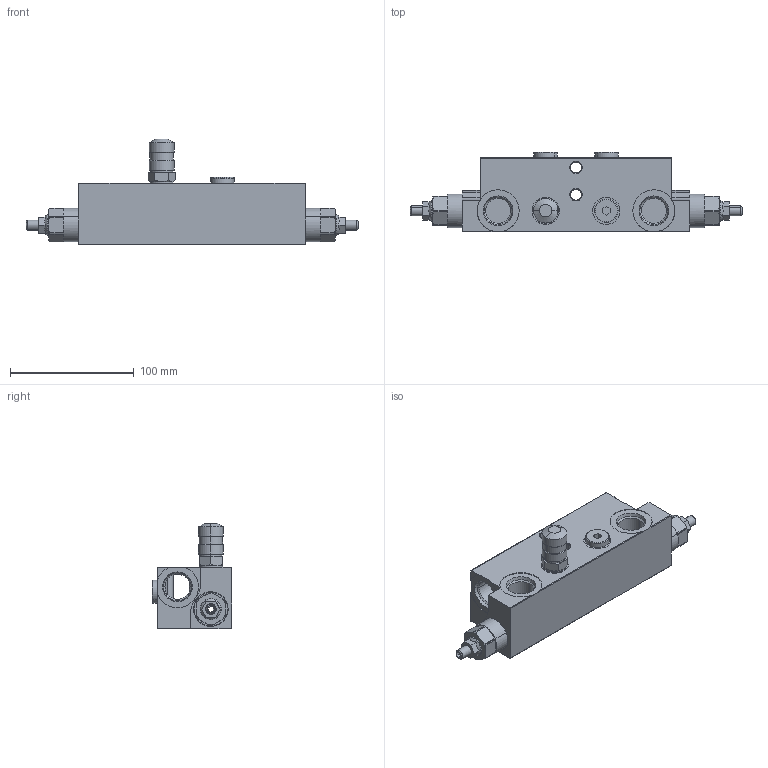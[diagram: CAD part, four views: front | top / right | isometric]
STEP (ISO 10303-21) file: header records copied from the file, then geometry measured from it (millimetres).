
FILE_DESCRIPTION (( 'STEP AP214' ), '1' );
FILE_NAME ('VCD78001.STEP', '2025-06-03T00:15:24', ( '' ), ( '' ), 'SwSTEP 2.0', 'SolidWorks 2023', '' );
FILE_SCHEMA (( 'AUTOMOTIVE_DESIGN' ));
Length unit declared in the file: millimetre
Products named in the file (1): VCD78001
Bounding box: 268.52 x 64.5 x 85.5 mm (x, y, z)
Surface area: 62546.4 mm2 (no closed solid volume)
Topology: 0 solids, 11 shells, 264 faces, 671 edges, 426 vertices
Faces by surface type: plane 112, cylinder 68, cone 62, torus 22
Entity records: 8183 total; most frequent: CARTESIAN_POINT 1700, DIRECTION 1427, ORIENTED_EDGE 1260, EDGE_CURVE 671, AXIS2_PLACEMENT_3D 543, VERTEX_POINT 426, VECTOR 341, LINE 341
